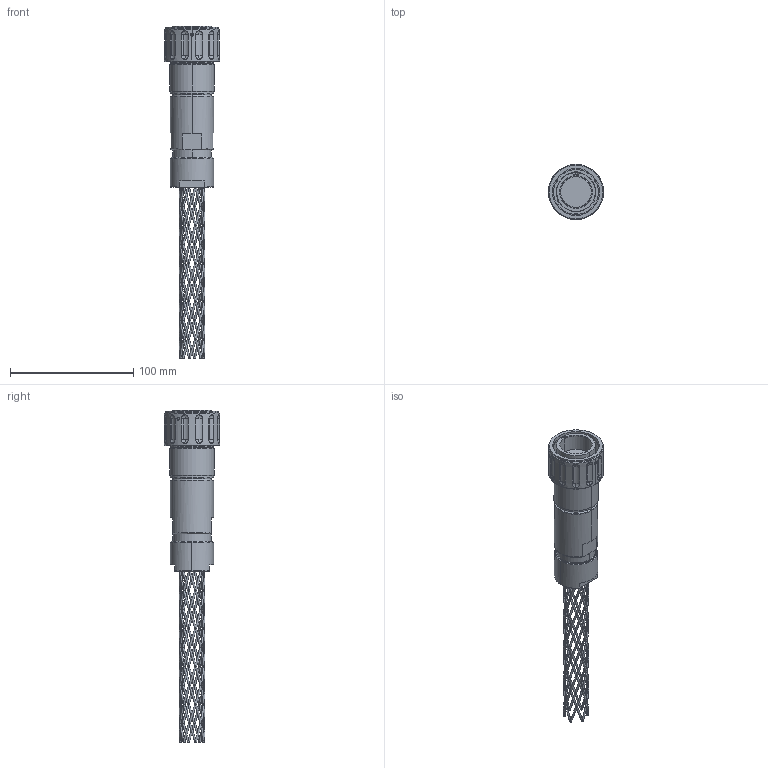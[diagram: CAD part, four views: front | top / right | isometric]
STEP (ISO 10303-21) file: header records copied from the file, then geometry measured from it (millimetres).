
FILE_DESCRIPTION (( 'STEP AP214' ), '1' );
FILE_NAME ('QLINK-PGBX-21XX-GXXX-RA.STEP', '2025-12-09T15:50:26', ( '' ), ( '' ), 'SwSTEP 2.0', 'SolidWorks 2024', '' );
FILE_SCHEMA (( 'AUTOMOTIVE_DESIGN' ));
Length unit declared in the file: millimetre
Products named in the file (1): QLINK-PGBX-21XX-GXXX-RA
Bounding box: 44.6 x 44.6 x 268.99 mm (x, y, z)
Volume: 130287.1 mm3; surface area: 33812.5 mm2
Topology: 5 solids, 5 shells, 499 faces, 1338 edges, 768 vertices
Faces by surface type: bspline 221, cylinder 102, plane 77, sphere 48, cone 39, torus 12
Entity records: 118528 total; most frequent: CARTESIAN_POINT 108487, ORIENTED_EDGE 2676, DIRECTION 1541, EDGE_CURVE 1338, VERTEX_POINT 768, AXIS2_PLACEMENT_3D 656, EDGE_LOOP 536, FACE_OUTER_BOUND 499
